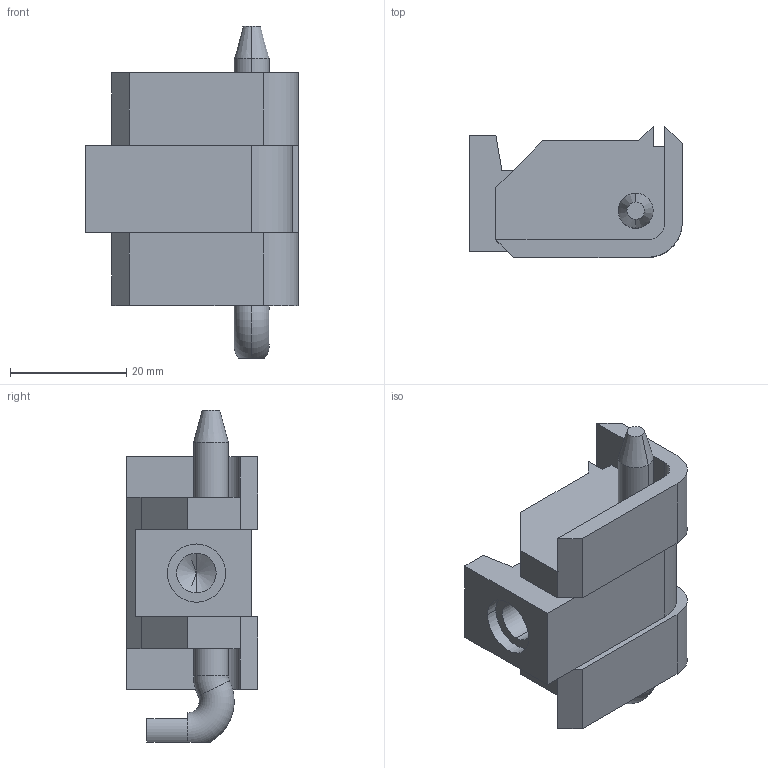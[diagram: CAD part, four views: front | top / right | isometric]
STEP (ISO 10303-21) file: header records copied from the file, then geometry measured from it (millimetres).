
FILE_DESCRIPTION (( 'STEP AP214' ), '1' );
FILE_NAME ('SK2-017-4.STEP', '2020-04-15T06:43:29', ( 'admin' ), ( 'Microsoft' ), 'SwSTEP 2.0', 'SolidWorks 2018', '' );
FILE_SCHEMA (( 'AUTOMOTIVE_DESIGN' ));
Length unit declared in the file: millimetre
Products named in the file (4): SK2-017-4-F2; SK2-017-4-F1; SK2-017-4; SK2-017-4-F3
Assembly tree (3 placements, depth 2):
  SK2-017-4
    SK2-017-4-F1
    SK2-017-4-F2
    SK2-017-4-F3
Bounding box: 36.5 x 22.5 x 57 mm (x, y, z)
Volume: 17804.3 mm3; surface area: 10429.2 mm2
Topology: 3 solids, 3 shells, 67 faces, 164 edges, 103 vertices
Faces by surface type: plane 36, cylinder 19, cone 8, torus 4
Entity records: 2166 total; most frequent: CARTESIAN_POINT 372, DIRECTION 358, ORIENTED_EDGE 324, EDGE_CURVE 162, AXIS2_PLACEMENT_3D 125, VECTOR 108, LINE 108, VERTEX_POINT 103
